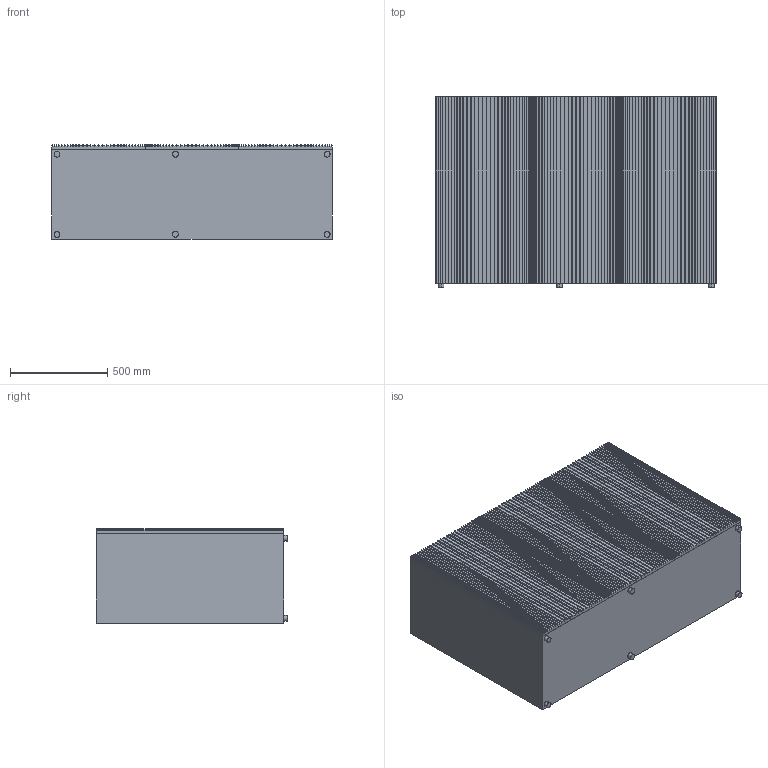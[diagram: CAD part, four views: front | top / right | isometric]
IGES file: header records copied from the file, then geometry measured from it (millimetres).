
Start section: SolidWorks IGES file using analytic representation for surfaces
Global section: file name: C:\Users\Matteo\Desktop\_Horm\_carlos\_collezione carlos\_IGS CARLOS\CARLOS cm 144X49X98H.IGS; native system: SolidWorks 2010; preprocessor: SolidWorks 2010; author: Matteo; date: 160224.161759; units: millimetre
Bounding box: 1440 x 980 x 484 mm (x, y, z)
Surface area: 10920269.7 mm2 (no closed solid volume)
Topology: 0 solids, 0 shells, 972 faces, 5184 edges, 5184 vertices
Faces by surface type: bspline 960, revolution 12
